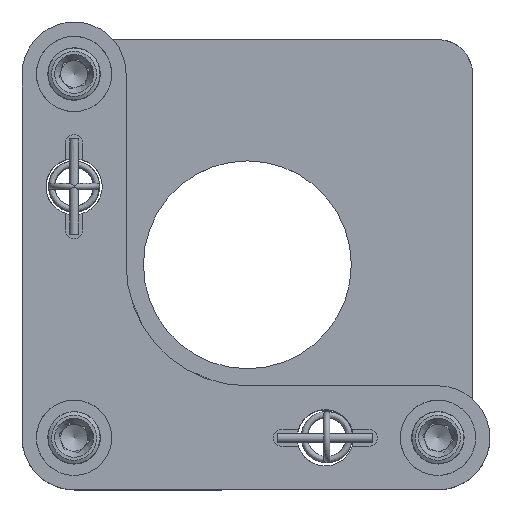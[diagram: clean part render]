
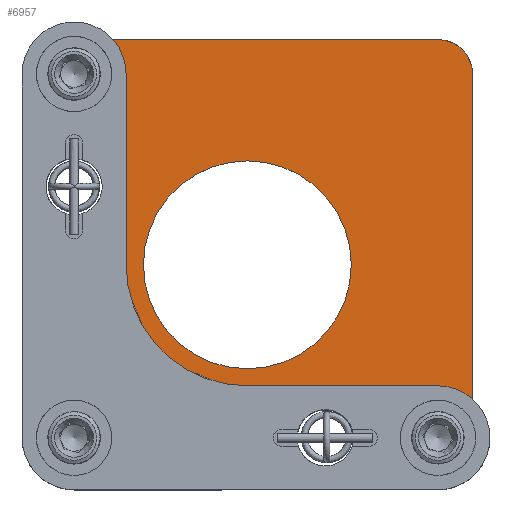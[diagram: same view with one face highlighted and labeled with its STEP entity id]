
A CAD part, top view. The second image highlights one B-rep face of the part: STEP entity #6957.
In plain terms, the highlighted planar face has unit normal (0, 0, 1).
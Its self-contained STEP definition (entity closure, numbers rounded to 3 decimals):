
#482=LINE($,#13714,#1012);
#483=LINE($,#13718,#1013);
#484=LINE($,#13722,#1014);
#485=LINE($,#13725,#1015);
#1012=VECTOR($,#8348,42.);
#1013=VECTOR($,#8351,42.);
#1014=VECTOR($,#8354,42.);
#1015=VECTOR($,#8357,42.);
#1611=PLANE($,#7495);
#1827=FACE_BOUND($,#2536,.T.);
#1828=FACE_BOUND($,#2537,.T.);
#1829=FACE_BOUND($,#2538,.T.);
#1830=FACE_BOUND($,#2539,.T.);
#1831=FACE_BOUND($,#2540,.T.);
#1832=FACE_BOUND($,#2541,.T.);
#1833=FACE_BOUND($,#2542,.T.);
#2536=EDGE_LOOP($,(#5223));
#2537=EDGE_LOOP($,(#5224));
#2538=EDGE_LOOP($,(#5225,#5226,#5227,#5228,#5229,#5230,#5231,#5232));
#2539=EDGE_LOOP($,(#5233));
#2540=EDGE_LOOP($,(#5234));
#2541=EDGE_LOOP($,(#5235));
#2542=EDGE_LOOP($,(#5236));
#2915=CIRCLE($,#7309,2.154);
#2998=CIRCLE($,#7493,3.75);
#2999=CIRCLE($,#7496,3.75);
#3000=CIRCLE($,#7497,4.);
#3001=CIRCLE($,#7498,4.);
#3002=CIRCLE($,#7499,4.);
#3003=CIRCLE($,#7500,4.);
#3004=CIRCLE($,#7501,12.);
#3005=CIRCLE($,#7502,3.25);
#3006=CIRCLE($,#7503,3.25);
#3133=VERTEX_POINT($,#9467);
#3269=VERTEX_POINT($,#13704);
#3270=VERTEX_POINT($,#13708);
#3271=VERTEX_POINT($,#13710);
#3272=VERTEX_POINT($,#13711);
#3273=VERTEX_POINT($,#13713);
#3274=VERTEX_POINT($,#13715);
#3275=VERTEX_POINT($,#13717);
#3276=VERTEX_POINT($,#13719);
#3277=VERTEX_POINT($,#13721);
#3278=VERTEX_POINT($,#13723);
#3279=VERTEX_POINT($,#13726);
#3280=VERTEX_POINT($,#13728);
#3281=VERTEX_POINT($,#13730);
#3835=EDGE_CURVE($,#3133,#3133,#2915,.T.);
#4013=EDGE_CURVE($,#3269,#3269,#2998,.T.);
#4014=EDGE_CURVE($,#3270,#3270,#2999,.T.);
#4015=EDGE_CURVE($,#3271,#3272,#3000,.T.);
#4016=EDGE_CURVE($,#3273,#3272,#482,.T.);
#4017=EDGE_CURVE($,#3274,#3273,#3001,.T.);
#4018=EDGE_CURVE($,#3275,#3274,#483,.T.);
#4019=EDGE_CURVE($,#3276,#3275,#3002,.T.);
#4020=EDGE_CURVE($,#3277,#3276,#484,.T.);
#4021=EDGE_CURVE($,#3278,#3277,#3003,.T.);
#4022=EDGE_CURVE($,#3271,#3278,#485,.T.);
#4023=EDGE_CURVE($,#3279,#3279,#3004,.T.);
#4024=EDGE_CURVE($,#3280,#3280,#3005,.T.);
#4025=EDGE_CURVE($,#3281,#3281,#3006,.T.);
#5223=ORIENTED_EDGE($,*,*,#3835,.F.);
#5224=ORIENTED_EDGE($,*,*,#4014,.F.);
#5225=ORIENTED_EDGE($,*,*,#4015,.T.);
#5226=ORIENTED_EDGE($,*,*,#4016,.F.);
#5227=ORIENTED_EDGE($,*,*,#4017,.F.);
#5228=ORIENTED_EDGE($,*,*,#4018,.F.);
#5229=ORIENTED_EDGE($,*,*,#4019,.F.);
#5230=ORIENTED_EDGE($,*,*,#4020,.F.);
#5231=ORIENTED_EDGE($,*,*,#4021,.F.);
#5232=ORIENTED_EDGE($,*,*,#4022,.F.);
#5233=ORIENTED_EDGE($,*,*,#4023,.T.);
#5234=ORIENTED_EDGE($,*,*,#4024,.T.);
#5235=ORIENTED_EDGE($,*,*,#4025,.T.);
#5236=ORIENTED_EDGE($,*,*,#4013,.F.);
#6957=ADVANCED_FACE($,(#1827,#1828,#1829,#1830,#1831,#1832,#1833),#1611,
 .F.);
#7309=AXIS2_PLACEMENT_3D($,#9468,#7900,#7901);
#7493=AXIS2_PLACEMENT_3D($,#13705,#8338,#8339);
#7495=AXIS2_PLACEMENT_3D($,#13707,#8342,#8343);
#7496=AXIS2_PLACEMENT_3D($,#13709,#8344,#8345);
#7497=AXIS2_PLACEMENT_3D($,#13712,#8346,#8347);
#7498=AXIS2_PLACEMENT_3D($,#13716,#8349,#8350);
#7499=AXIS2_PLACEMENT_3D($,#13720,#8352,#8353);
#7500=AXIS2_PLACEMENT_3D($,#13724,#8355,#8356);
#7501=AXIS2_PLACEMENT_3D($,#13727,#8358,#8359);
#7502=AXIS2_PLACEMENT_3D($,#13729,#8360,#8361);
#7503=AXIS2_PLACEMENT_3D($,#13731,#8362,#8363);
#7900=DIRECTION('center_axis',(0.,0.,1.));
#7901=DIRECTION('ref_axis',(0.,1.,0.));
#8338=DIRECTION('center_axis',(0.,0.,
1.));
#8339=DIRECTION('ref_axis',(0.,1.,0.));
#8342=DIRECTION('center_axis',(0.,0.,
-1.));
#8343=DIRECTION('ref_axis',(0.,1.,0.));
#8344=DIRECTION('center_axis',(0.,0.,
1.));
#8345=DIRECTION('ref_axis',(0.,1.,0.));
#8346=DIRECTION('center_axis',(0.,0.,
1.));
#8347=DIRECTION('ref_axis',(0.,-1.,0.));
#8348=DIRECTION($,(1.,0.,0.));
#8349=DIRECTION('center_axis',(0.,0.,
-1.));
#8350=DIRECTION('ref_axis',(-0.707,0.707,0.));
#8351=DIRECTION($,(0.,1.,0.));
#8352=DIRECTION('center_axis',(0.,0.,
-1.));
#8353=DIRECTION('ref_axis',(-0.707,-0.707,0.));
#8354=DIRECTION($,(-1.,0.,0.));
#8355=DIRECTION('center_axis',(0.,0.,
-1.));
#8356=DIRECTION('ref_axis',(0.707,-0.707,0.));
#8357=DIRECTION($,(0.,-1.,0.));
#8358=DIRECTION('center_axis',(0.,0.,
-1.));
#8359=DIRECTION('ref_axis',(0.,1.,0.));
#8360=DIRECTION('center_axis',(0.,0.,
-1.));
#8361=DIRECTION('ref_axis',(0.,1.,0.));
#8362=DIRECTION('center_axis',(0.,0.,
-1.));
#8363=DIRECTION('ref_axis',(0.,1.,0.));
#9467=CARTESIAN_POINT('',(4.926,3.808,-3.5));
#9468=CARTESIAN_POINT('Origin',(4.926,5.962,-3.5));
#13704=CARTESIAN_POINT('',(4.926,44.212,-3.5));
#13705=CARTESIAN_POINT('Origin',(4.926,47.962,-3.5));
#13707=CARTESIAN_POINT('Origin',(25.926,26.962,-3.5));
#13708=CARTESIAN_POINT('',(46.926,2.212,-3.5));
#13709=CARTESIAN_POINT('Origin',(46.926,5.962,-3.5));
#13710=CARTESIAN_POINT('',(50.926,47.962,-3.5));
#13711=CARTESIAN_POINT('',(46.926,51.962,-3.5));
#13712=CARTESIAN_POINT('Origin',(46.926,47.962,-3.5));
#13713=CARTESIAN_POINT('',(4.926,51.962,-3.5));
#13714=CARTESIAN_POINT($,(0.926,51.962,-3.5));
#13715=CARTESIAN_POINT('',(0.926,47.962,-3.5));
#13716=CARTESIAN_POINT('Origin',(4.926,47.962,-3.5));
#13717=CARTESIAN_POINT('',(0.926,5.962,-3.5));
#13718=CARTESIAN_POINT($,(0.926,1.962,-3.5));
#13719=CARTESIAN_POINT('',(4.926,1.962,-3.5));
#13720=CARTESIAN_POINT('Origin',(4.926,5.962,-3.5));
#13721=CARTESIAN_POINT('',(46.926,1.962,-3.5));
#13722=CARTESIAN_POINT($,(50.926,1.962,-3.5));
#13723=CARTESIAN_POINT('',(50.926,5.962,-3.5));
#13724=CARTESIAN_POINT('Origin',(46.926,5.962,-3.5));
#13725=CARTESIAN_POINT($,(50.926,51.962,-3.5));
#13726=CARTESIAN_POINT('',(24.926,13.962,-3.5));
#13727=CARTESIAN_POINT('Origin',(24.926,25.962,-3.5));
#13728=CARTESIAN_POINT('',(4.926,31.712,-3.5));
#13729=CARTESIAN_POINT('Origin',(4.926,34.962,-3.5));
#13730=CARTESIAN_POINT('',(33.926,2.712,-3.5));
#13731=CARTESIAN_POINT('Origin',(33.926,5.962,-3.5));
